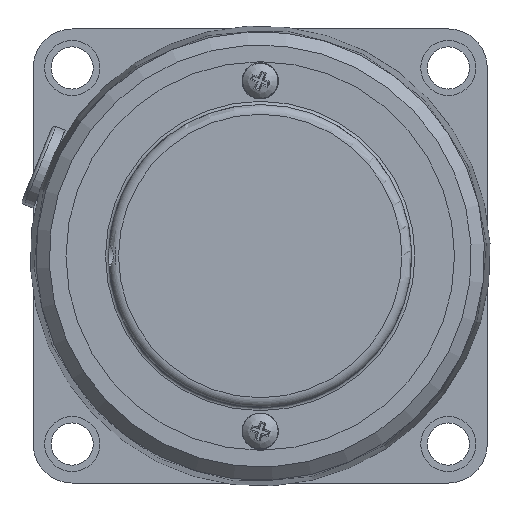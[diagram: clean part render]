
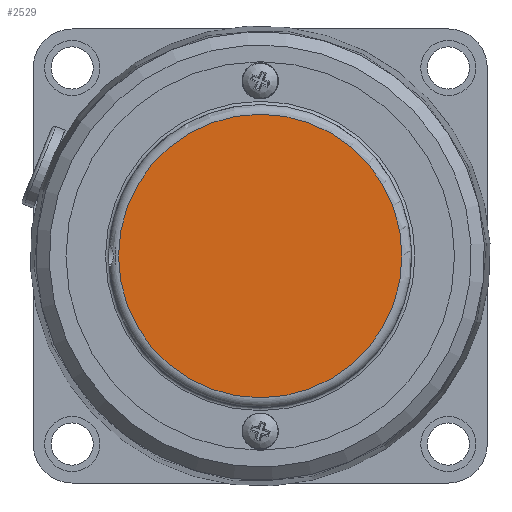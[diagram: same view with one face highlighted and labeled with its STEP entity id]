
A CAD part, left-side view. The second image highlights one B-rep face of the part: STEP entity #2529.
In plain terms, the highlighted planar face has unit normal (-1, 0, 0).
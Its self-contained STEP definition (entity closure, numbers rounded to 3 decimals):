
#150=CIRCLE('',#2770,21.85);
#375=FACE_OUTER_BOUND('',#539,.T.);
#539=EDGE_LOOP('',(#1844));
#1116=VERTEX_POINT('',#3987);
#1389=EDGE_CURVE('',#1116,#1116,#150,.T.);
#1844=ORIENTED_EDGE('',*,*,#1389,.F.);
#2417=PLANE('',#2773);
#2529=ADVANCED_FACE('',(#375),#2417,.F.);
#2770=AXIS2_PLACEMENT_3D('',#3989,#3226,#3227);
#2773=AXIS2_PLACEMENT_3D('',#4092,#3233,#3234);
#3226=DIRECTION('center_axis',(1.,0.,0.));
#3227=DIRECTION('ref_axis',(0.,0.,-1.));
#3233=DIRECTION('center_axis',(1.,0.,0.));
#3234=DIRECTION('ref_axis',(0.,0.,-1.));
#3987=CARTESIAN_POINT('',(-48.2,0.,21.85));
#3989=CARTESIAN_POINT('Origin',(-48.2,0.,0.));
#4092=CARTESIAN_POINT('Origin',(-48.2,0.,0.));
